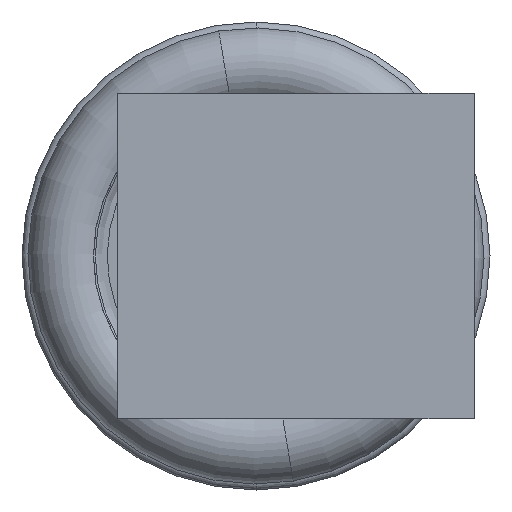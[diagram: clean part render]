
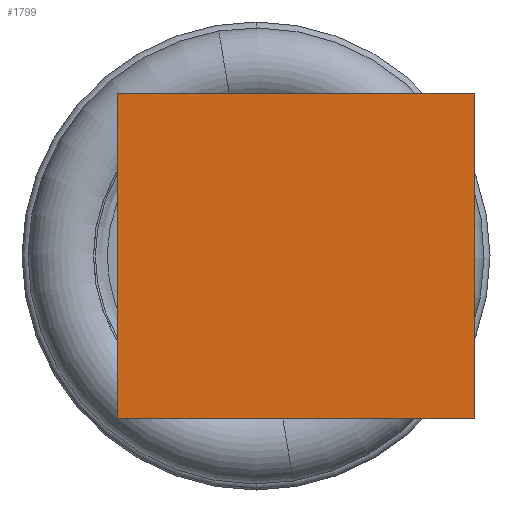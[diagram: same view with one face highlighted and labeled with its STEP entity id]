
A CAD part, left-side view. The second image highlights one B-rep face of the part: STEP entity #1799.
In plain terms, the highlighted planar face has unit normal (-1, 0, 0).
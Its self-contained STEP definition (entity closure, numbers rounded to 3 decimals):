
#298 = ORIENTED_EDGE ( 'NONE', *, *, #12992, .T. ) ;
#439 = LINE ( 'NONE', #16039, #2882 ) ;
#1519 = ORIENTED_EDGE ( 'NONE', *, *, #17096, .F. ) ;
#1799 = ADVANCED_FACE ( 'NONE', ( #3027 ), #3534, .T. ) ;
#2882 = VECTOR ( 'NONE', #25226, 1000. ) ;
#3004 = EDGE_CURVE ( 'NONE', #24728, #3935, #12076, .T. ) ;
#3027 = FACE_OUTER_BOUND ( 'NONE', #12178, .T. ) ;
#3534 = PLANE ( 'NONE',  #12960 ) ;
#3935 = VERTEX_POINT ( 'NONE', #21104 ) ;
#4708 = EDGE_CURVE ( 'NONE', #14607, #3935, #439, .T. ) ;
#6989 = DIRECTION ( 'NONE',  ( -1., 0., 0. ) ) ;
#7960 = CARTESIAN_POINT ( 'NONE',  ( -124.996, -5.5, -12.5 ) ) ;
#9809 = VECTOR ( 'NONE', #22388, 1000. ) ;
#11325 = VERTEX_POINT ( 'NONE', #24309 ) ;
#11379 = CARTESIAN_POINT ( 'NONE',  ( -124.996, -5.5, -4.1 ) ) ;
#12076 = LINE ( 'NONE', #20377, #12217 ) ;
#12178 = EDGE_LOOP ( 'NONE', ( #17265, #14459, #1519, #298 ) ) ;
#12217 = VECTOR ( 'NONE', #21911, 1000. ) ;
#12960 = AXIS2_PLACEMENT_3D ( 'NONE', #20930, #6989, #13002 ) ;
#12992 = EDGE_CURVE ( 'NONE', #11325, #14607, #24166, .T. ) ;
#13002 = DIRECTION ( 'NONE',  ( 0., 0., 1. ) ) ;
#14459 = ORIENTED_EDGE ( 'NONE', *, *, #3004, .F. ) ;
#14607 = VERTEX_POINT ( 'NONE', #23980 ) ;
#16039 = CARTESIAN_POINT ( 'NONE',  ( -124.996, 3.5, -12.5 ) ) ;
#16106 = VECTOR ( 'NONE', #20113, 1000. ) ;
#17096 = EDGE_CURVE ( 'NONE', #11325, #24728, #19858, .T. ) ;
#17265 = ORIENTED_EDGE ( 'NONE', *, *, #4708, .T. ) ;
#19858 = LINE ( 'NONE', #7960, #16106 ) ;
#20113 = DIRECTION ( 'NONE',  ( 0., 0., -1. ) ) ;
#20377 = CARTESIAN_POINT ( 'NONE',  ( -124.996, -12.5, -4.1 ) ) ;
#20930 = CARTESIAN_POINT ( 'NONE',  ( -124.996, -12.5, 0. ) ) ;
#21104 = CARTESIAN_POINT ( 'NONE',  ( -124.996, 3.5, -4.1 ) ) ;
#21911 = DIRECTION ( 'NONE',  ( 0., 1., 0. ) ) ;
#22139 = CARTESIAN_POINT ( 'NONE',  ( -124.996, -12.5, 4.1 ) ) ;
#22388 = DIRECTION ( 'NONE',  ( 0., 1., 0. ) ) ;
#23980 = CARTESIAN_POINT ( 'NONE',  ( -124.996, 3.5, 4.1 ) ) ;
#24166 = LINE ( 'NONE', #22139, #9809 ) ;
#24309 = CARTESIAN_POINT ( 'NONE',  ( -124.996, -5.5, 4.1 ) ) ;
#24728 = VERTEX_POINT ( 'NONE', #11379 ) ;
#25226 = DIRECTION ( 'NONE',  ( 0., 0., -1. ) ) ;
